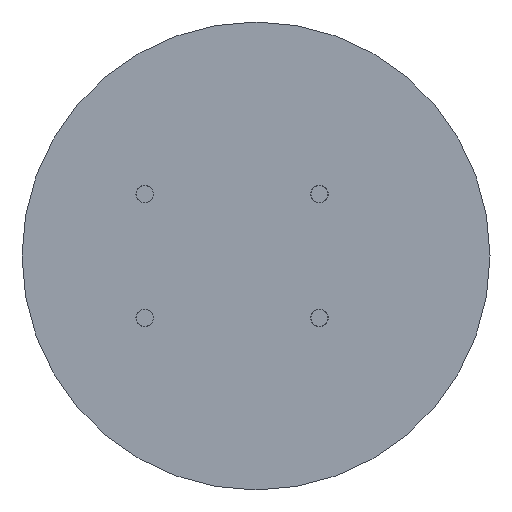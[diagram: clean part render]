
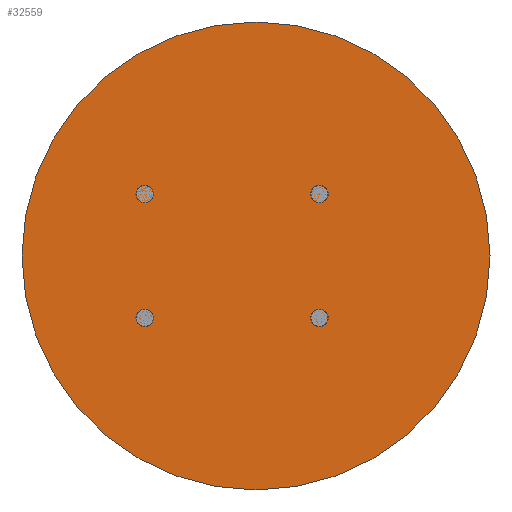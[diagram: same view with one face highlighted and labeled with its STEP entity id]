
A CAD part, top view. The second image highlights one B-rep face of the part: STEP entity #32559.
In plain terms, the highlighted planar face has unit normal (0, 0, -1).
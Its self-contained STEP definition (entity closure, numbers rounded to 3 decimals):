
#32543=CARTESIAN_POINT('',(573.,0.,321.5));
#32544=DIRECTION('',(0.0,0.0,-1.0));
#32545=DIRECTION('',(-1.0,0.0,0.0));
#32546=AXIS2_PLACEMENT_3D('',#32543,#32544,#32545);
#32547=PLANE('',#32546);
#32548=CARTESIAN_POINT('',(1638.,0.,321.5));
#32549=VERTEX_POINT('',#32548);
#32550=CARTESIAN_POINT('',(573.,0.,321.5));
#32551=DIRECTION('',(0.0,0.0,-1.0));
#32552=DIRECTION('',(-1.0,0.0,0.0));
#32553=AXIS2_PLACEMENT_3D('',#32550,#32551,#32552);
#32554=CIRCLE('',#32553,1065.0);
#32555=EDGE_CURVE('',#32549,#32549,#32554,.T.);
#32556=ORIENTED_EDGE('',*,*,#32555,.T.);
#32557=EDGE_LOOP('',(#32556));
#32558=FACE_OUTER_BOUND('',#32557,.T.);
#32559=ADVANCED_FACE('',(#32558),#32547,.T.);
